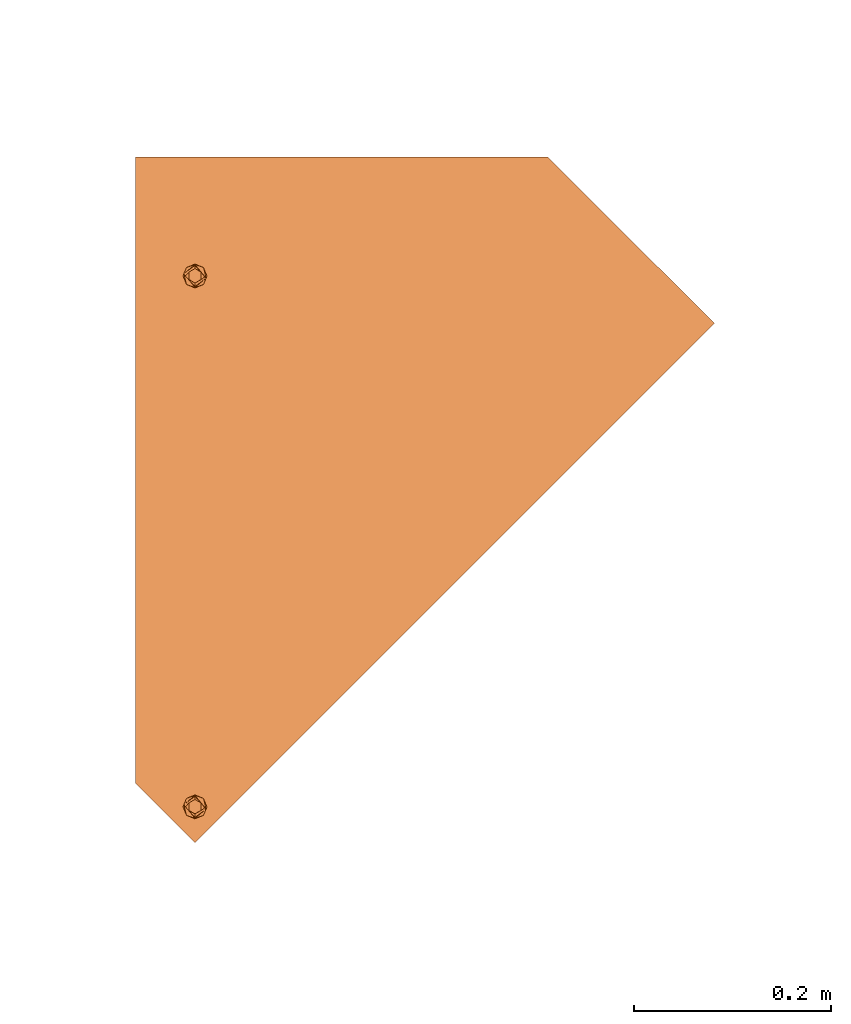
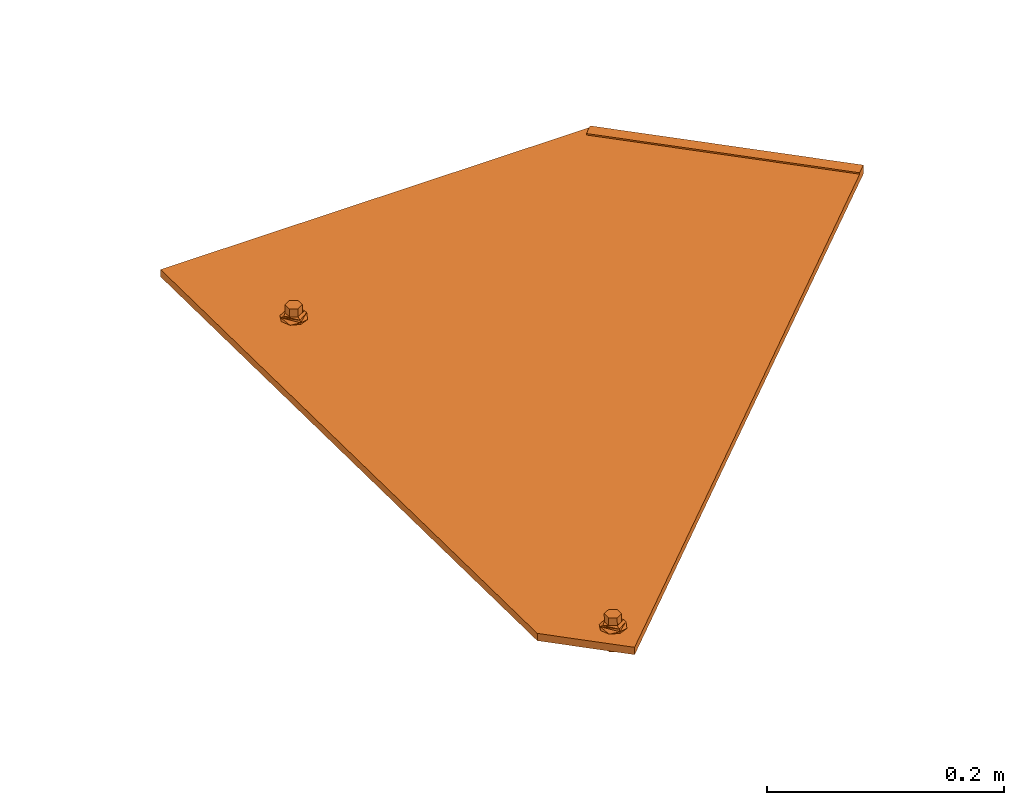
# One storey, part 142 of 151: 1 proxy.
"""IFC2X3 building model written with IfcOpenShell, lengths in millimetres."""

import ifcopenshell
import ifcopenshell.guid

model = None  # the IFC model being written
_history = None  # IfcOwnerHistory: only IFC2X3 demands one
_inside = {}  # id of a spatial element -> (the spatial element, [elements in it])
_under = {}  # id of a project, library or spatial element -> (it, [spatial elements below it])
_declared = {}  # id of a project -> (the project, [libraries it declares])
_typed = {}  # id of a type object -> (the type object, [elements of that type])
_made_of = {}  # id of a material, layer set ... -> (it, [elements and type objects made of it])


def new_model(schema):
    """Start an empty IFC model of exactly this schema.

    Asked for "IFC4X3", IfcOpenShell would pick the latest addendum, in which some entities
    have other attributes; the version numbers below select the first issue.
    IFC2X3 requires an IfcOwnerHistory on every rooted entity: one is made here for all.
    """
    global model, _history
    if schema == "IFC4X3":
        model = ifcopenshell.file(schema_version=(4, 3, 0, 0))
    else:
        model = ifcopenshell.file(schema=schema)
    _inside.clear()
    _under.clear()
    _declared.clear()
    _typed.clear()
    _made_of.clear()
    _history = None
    if model.schema == "IFC2X3":
        org = make("IfcOrganization", Name="unknown")
        user = make(
            "IfcPersonAndOrganization",
            ThePerson=make("IfcPerson", FamilyName="unknown"),
            TheOrganization=org,
        )
        app = make(
            "IfcApplication",
            ApplicationDeveloper=org,
            Version="unknown",
            ApplicationFullName="unknown",
            ApplicationIdentifier="unknown",
        )
        _history = make(
            "IfcOwnerHistory",
            OwningUser=user,
            OwningApplication=app,
            ChangeAction="ADDED",
            CreationDate=0,
        )
    return model


def make(cls, **values):
    """One entity of the class cls with the attributes given. An attribute that is None is left unset."""
    return model.create_entity(
        cls, **{name: value for name, value in values.items() if value is not None}
    )


def entity(cls, *values):
    """Any entity or typed value of the class cls, its attributes in the order of the schema. None: left unset."""
    e = model.create_entity(cls)
    for i, value in enumerate(values):
        if value is not None:
            e[i] = value
    return e


def rooted(cls, **values):
    """An entity with a GlobalId (a new one), such as an element, a storey or a relation."""
    return make(cls, GlobalId=ifcopenshell.guid.new(), OwnerHistory=_history, **values)


def si_unit(unit_type, name, prefix=None):
    """IfcSIUnit, for example si_unit("LENGTHUNIT", "METRE", prefix="MILLI")."""
    return make("IfcSIUnit", UnitType=unit_type, Prefix=prefix, Name=name)


def converted_unit(unit_type, name, factor, base, dimensions=None, offset=None):
    """IfcConversionBasedUnit, such as the inch: factor (a typed value) times the base unit."""
    return make(
        "IfcConversionBasedUnit"
        if offset is None
        else "IfcConversionBasedUnitWithOffset",
        ConversionOffset=offset,
        Dimensions=None
        if dimensions is None
        else entity("IfcDimensionalExponents", *dimensions),
        UnitType=unit_type,
        Name=name,
        ConversionFactor=make(
            "IfcMeasureWithUnit", ValueComponent=factor, UnitComponent=base
        ),
    )


def derived_unit(unit_type, elements):
    """IfcDerivedUnit: a product of units, each with its exponent."""
    return make(
        "IfcDerivedUnit",
        Elements=[
            make("IfcDerivedUnitElement", Unit=unit, Exponent=power)
            for unit, power in elements
        ],
        UnitType=unit_type,
    )


def assignment(units):
    """IfcUnitAssignment: the units of a project."""
    return None if units is None else make("IfcUnitAssignment", Units=units)


def point(xyz):
    """IfcCartesianPoint."""
    return None if xyz is None else make("IfcCartesianPoint", Coordinates=xyz)


def direction(xyz):
    """IfcDirection."""
    return None if xyz is None else make("IfcDirection", DirectionRatios=xyz)


def frame(location, z_axis=None, x_axis=None):
    """IfcAxis2Placement3D, a coordinate frame: its origin and axes. An axis left out is left unset."""
    return make(
        "IfcAxis2Placement3D",
        Location=point(location),
        Axis=direction(z_axis),
        RefDirection=direction(x_axis),
    )


def origin():
    """The frame at (0, 0, 0) with its axes left unset."""
    return frame((0.0, 0.0, 0.0))


def place(relative_to, where):
    """IfcLocalPlacement: puts the frame where relative to a parent placement (None: the world)."""
    return make(
        "IfcLocalPlacement", PlacementRelTo=relative_to, RelativePlacement=where
    )


def context(
    kind, dimensions, precision=None, world=None, true_north=None, identifier=None
):
    """IfcGeometricRepresentationContext, for example the 3D "Model" context."""
    return make(
        "IfcGeometricRepresentationContext",
        ContextIdentifier=identifier,
        ContextType=kind,
        CoordinateSpaceDimension=dimensions,
        Precision=precision,
        WorldCoordinateSystem=world,
        TrueNorth=true_north,
    )


def subcontext(parent, identifier, kind, view, scale=None):
    """IfcGeometricRepresentationSubContext, for example "Body" below "Model"."""
    return make(
        "IfcGeometricRepresentationSubContext",
        ContextIdentifier=identifier,
        ContextType=kind,
        ParentContext=parent,
        TargetScale=scale,
        TargetView=view,
    )


def project(units=None, contexts=None):
    """IfcProject with its units and contexts."""
    return rooted(
        "IfcProject",
        Name="project",
        RepresentationContexts=contexts,
        UnitsInContext=assignment(units),
    )


def spatial(cls, under=None, at=None, **own):
    """A site, building, storey or space (cls), placed at a placement, below another one or the project."""
    s = rooted(cls, ObjectPlacement=at, **own)
    if under is not None:
        _under.setdefault(under.id(), (under, []))[1].append(s)
    return s


def faces_of(points, faces, orient=None, outer=None):
    """IfcFace entities. A face is a list of loops; a loop is a list of indices into points, from 0.

    orient and outer hold one flag for each loop. By default every Orientation is true, the
    first loop of a face is its IfcFaceOuterBound and the others are IfcFaceBound.
    """
    made = []
    for i, loops in enumerate(faces):
        bounds = []
        for j, loop in enumerate(loops):
            is_outer = j == 0 if outer is None else outer[i][j]
            bounds.append(
                make(
                    "IfcFaceOuterBound" if is_outer else "IfcFaceBound",
                    Bound=make("IfcPolyLoop", Polygon=[points[k] for k in loop]),
                    Orientation=True if orient is None else orient[i][j],
                )
            )
        made.append(make("IfcFace", Bounds=bounds))
    return made


def faceted_brep(points, faces, orient=None, outer=None, voids=None):
    """IfcFacetedBrep: a solid bounded by flat faces; with voids (closed shells), ...WithVoids."""
    shared = [point(p) for p in points]
    hull = make("IfcClosedShell", CfsFaces=faces_of(shared, faces, orient, outer))
    if voids is None:
        return make("IfcFacetedBrep", Outer=hull)
    return make(
        "IfcFacetedBrepWithVoids",
        Outer=hull,
        Voids=[
            make(cls, CfsFaces=faces_of(shared, fs, o, b)) for cls, fs, o, b in voids
        ],
    )


def shape(context_of_items, identifier, shape_type, items):
    """IfcShapeRepresentation: the items that make up one representation, for example the "Body"."""
    return make(
        "IfcShapeRepresentation",
        ContextOfItems=context_of_items,
        RepresentationIdentifier=identifier,
        RepresentationType=shape_type,
        Items=items,
    )


def source(mapping_origin, context_of_items, identifier, shape_type, items):
    """IfcRepresentationMap: a shape defined once, which mapped items show again and again."""
    return make(
        "IfcRepresentationMap",
        MappingOrigin=mapping_origin,
        MappedRepresentation=shape(context_of_items, identifier, shape_type, items),
    )


def transform(
    local_origin,
    x_axis=None,
    y_axis=None,
    z_axis=None,
    scale=None,
    scale2=None,
    scale3=None,
    uniform=True,
):
    """IfcCartesianTransformationOperator3D, or its non-uniform kind. x_axis, y_axis, z_axis: its Axis1, 2, 3."""
    if uniform:
        return make(
            "IfcCartesianTransformationOperator3D",
            Axis1=direction(x_axis),
            Axis2=direction(y_axis),
            LocalOrigin=point(local_origin),
            Scale=scale,
            Axis3=direction(z_axis),
        )
    return make(
        "IfcCartesianTransformationOperator3DnonUniform",
        Axis1=direction(x_axis),
        Axis2=direction(y_axis),
        LocalOrigin=point(local_origin),
        Scale=scale,
        Axis3=direction(z_axis),
        Scale2=scale2,
        Scale3=scale3,
    )


def mapped(mapping_source, mapping_target):
    """IfcMappedItem: shows the shape of a source again, moved by a transform."""
    return make(
        "IfcMappedItem", MappingSource=mapping_source, MappingTarget=mapping_target
    )


def material(Name=None, Category=None):
    """IfcMaterial."""
    return make("IfcMaterial", Name=Name, Category=Category)


def material_list(materials):
    """IfcMaterialList."""
    return make("IfcMaterialList", Materials=materials)


def made_of(thing, what):
    """Note that an element or type object is made of a material, layer set ...; save() writes the relation."""
    if what is not None:
        _made_of.setdefault(what.id(), (what, []))[1].append(thing)
    return thing


def type_object(cls, material=None, **own):
    """A type object (cls), such as IfcWallType, which elements share."""
    return made_of(rooted(cls, **own), material)


def type_shapes(of_type, sources):
    """Give a type object the sources (RepresentationMaps) that its elements show as mapped items."""
    of_type.RepresentationMaps = sources


def element(
    cls,
    number,
    at=None,
    inside=None,
    cuts=None,
    type_object=None,
    material=None,
    context=None,
    identifier="Body",
    shape_type=None,
    held_by="IfcProductDefinitionShape",
    body=None,
    shapes=None,
    **own,
):
    """One element of the class cls, such as IfcWall. Its Tag is "e" and its number.

    at: its placement. inside: the storey or other place that contains it. cuts: it is an
    opening in that element (IfcRelVoidsElement). A single representation is given by context,
    identifier, shape_type and body (its items); several are given by shapes. held_by: the class
    of the entity that holds the representations. save() writes the other relations.
    """
    e = rooted(cls, Tag="e%d" % number, ObjectPlacement=at, **own)
    if body is not None:
        shapes = [shape(context, identifier, shape_type, body)]
    if shapes is not None:
        e.Representation = make(held_by, Representations=shapes)
    if inside is not None:
        _inside.setdefault(inside.id(), (inside, []))[1].append(e)
    if cuts is not None:
        rooted(
            "IfcRelVoidsElement", RelatingBuildingElement=cuts, RelatedOpeningElement=e
        )
    if type_object is not None:
        _typed.setdefault(type_object.id(), (type_object, []))[1].append(e)
    return made_of(e, material)


def aggregate(whole, parts):
    """IfcRelAggregates: a whole, such as a stair, and the parts it consists of."""
    return rooted("IfcRelAggregates", RelatingObject=whole, RelatedObjects=parts)


def save(model, path):
    """Write the relations noted so far, then the file.

    IfcRelAggregates (storeys below a building ...), IfcRelContainedInSpatialStructure (elements
    in a storey), IfcRelDefinesByType, IfcRelAssociatesMaterial and IfcRelDeclares: one each for
    every whole, place, type object, material and project.
    """
    for whole, parts in _under.values():
        aggregate(whole, parts)
    for where, things in _inside.values():
        rooted(
            "IfcRelContainedInSpatialStructure",
            RelatedElements=things,
            RelatingStructure=where,
        )
    for kind, things in _typed.values():
        rooted("IfcRelDefinesByType", RelatedObjects=things, RelatingType=kind)
    for what, things in _made_of.values():
        rooted("IfcRelAssociatesMaterial", RelatedObjects=things, RelatingMaterial=what)
    for by, libraries in _declared.values():
        rooted("IfcRelDeclares", RelatingContext=by, RelatedDefinitions=libraries)
    model.write(path)


model = new_model("IFC2X3")

# Units and contexts
model_context = context("Model", 3, precision=0.01, world=origin(), true_north=direction((6.12303176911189e-17, 1.0)))
body_context = subcontext(model_context, "Body", "Model", "MODEL_VIEW")
ifc_project = project(units=[si_unit("LENGTHUNIT", "METRE", prefix="MILLI"), si_unit("AREAUNIT", "SQUARE_METRE"), si_unit("VOLUMEUNIT", "CUBIC_METRE"), converted_unit("PLANEANGLEUNIT", "DEGREE", entity("IfcRatioMeasure", 0.0174532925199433), si_unit("PLANEANGLEUNIT", "RADIAN"), dimensions=[0, 0, 0, 0, 0, 0, 0]), si_unit("MASSUNIT", "GRAM", prefix="KILO"), derived_unit("MASSDENSITYUNIT", [(si_unit("MASSUNIT", "GRAM", prefix="KILO"), 1), (si_unit("LENGTHUNIT", "METRE"), -3)]), si_unit("TIMEUNIT", "SECOND"), si_unit("FREQUENCYUNIT", "HERTZ"), si_unit("THERMODYNAMICTEMPERATUREUNIT", "DEGREE_CELSIUS"), derived_unit("THERMALTRANSMITTANCEUNIT", [(si_unit("MASSUNIT", "GRAM", prefix="KILO"), 1), (si_unit("THERMODYNAMICTEMPERATUREUNIT", "KELVIN"), -1), (si_unit("TIMEUNIT", "SECOND"), -3)]), derived_unit("VOLUMETRICFLOWRATEUNIT", [(si_unit("LENGTHUNIT", "METRE"), 3), (si_unit("TIMEUNIT", "SECOND"), -1)]), si_unit("ELECTRICCURRENTUNIT", "AMPERE"), si_unit("ELECTRICVOLTAGEUNIT", "VOLT"), si_unit("POWERUNIT", "WATT"), si_unit("FORCEUNIT", "NEWTON", prefix="KILO"), si_unit("ILLUMINANCEUNIT", "LUX"), si_unit("LUMINOUSFLUXUNIT", "LUMEN"), si_unit("LUMINOUSINTENSITYUNIT", "CANDELA"), derived_unit("USERDEFINED", [(si_unit("MASSUNIT", "GRAM", prefix="KILO"), -1), (si_unit("LENGTHUNIT", "METRE"), -2), (si_unit("TIMEUNIT", "SECOND"), 3), (si_unit("LUMINOUSFLUXUNIT", "LUMEN"), 1)]), derived_unit("LINEARVELOCITYUNIT", [(si_unit("LENGTHUNIT", "METRE"), 1), (si_unit("TIMEUNIT", "SECOND"), -1)]), si_unit("PRESSUREUNIT", "PASCAL"), derived_unit("USERDEFINED", [(si_unit("LENGTHUNIT", "METRE"), -2), (si_unit("MASSUNIT", "GRAM", prefix="KILO"), 1), (si_unit("TIMEUNIT", "SECOND"), -2)])], contexts=[model_context])

# Site, building, storey
site_placement = place(None, origin())
site = spatial("IfcSite", under=ifc_project, at=site_placement, Name="Default", CompositionType="ELEMENT")
building_placement = place(site_placement, origin())
building = spatial("IfcBuilding", under=site, at=building_placement, CompositionType="ELEMENT")
storey_placement = place(building_placement, origin())
storey = spatial("IfcBuildingStorey", under=building, at=storey_placement, Name="Level 1", CompositionType="ELEMENT", Elevation=0.0)

# Proxy
ifc_material_1 = material(Name="Rubber - Sunstyle - Black")
ifc_material_2 = material(Name="Glass - Sunstyle - Tainted Black")
ifc_material_list_1 = material_list([ifc_material_1, ifc_material_2])
ifc_material_list_2 = material_list([ifc_material_1, ifc_material_2])
building_element_proxy_type = type_object("IfcBuildingElementProxyType", Name="Corner Top Big Left - Black", PredefinedType="NOTDEFINED", material=ifc_material_list_2)
shared_shape = source(origin(), body_context, "Body", "Brep", [
    faceted_brep([(0.0, -33.9825851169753, -4.47296585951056), (-5.7742028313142, -37.3158552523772, -4.41714187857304), (-5.77420283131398, -36.9475461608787, 17.5747274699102), (0.0, -33.6142760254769, 17.5189034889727), (-5.77420283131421, -43.9823955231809, -4.30549391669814), (-5.77420283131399, -43.6140864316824, 17.6863754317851), (0.0, -47.3156656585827, -4.24966993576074), (0.0, -46.9473565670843, 17.7421994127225), (5.77420283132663, -43.9823955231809, -4.30549391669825), (5.77420283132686, -43.6140864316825, 17.686375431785), (5.77420283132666, -37.3158552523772, -4.41714187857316), (5.77420283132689, -36.9475461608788, 17.5747274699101), (-8.60370416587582, -48.8833141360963, 17.774621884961), (0.0, -52.4465854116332, 17.8342978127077), (-12.1674751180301, -40.2808162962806, 17.6305514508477), (-8.60370416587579, -31.6783184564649, 17.4864810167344), (0.0, -28.115047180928, 17.4268050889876), (8.60370416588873, -31.6783184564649, 17.4864810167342), (12.167475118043, -40.2808162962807, 17.6305514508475), (8.60370416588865, -48.8833141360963, 17.7746218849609), (-11.3242446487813, -37.9857391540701, 19.9433933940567), (-9.75647455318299, -40.2098014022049, 21.8708760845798), (0.0, -32.8967261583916, 22.5035764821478), (0.0, -31.6562285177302, 21.9232298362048), (0.0, -29.4986776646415, 20.9138547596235), (0.0, -51.8905414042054, 19.1093557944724), (0.0, -50.9469648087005, 21.273060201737), (0.0, -47.4975891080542, 22.748104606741), (0.0, -28.6280832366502, 18.719767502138), (-6.32324569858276, -43.8473733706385, 22.6869725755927), (-6.32324569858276, -36.5469418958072, 22.5647085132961), (11.3242446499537, -42.4971593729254, 20.0189484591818), (9.84888015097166, -41.2842078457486, 21.7920079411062), (6.32324569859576, -36.5469418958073, 22.564708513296), (6.32324569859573, -43.8473733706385, 22.6869725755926), (-6.32324569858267, -43.7133449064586, 30.6898607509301), (0.0, -47.3635606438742, 30.7509927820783), (0.0, -40.063129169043, 30.6287287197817), (-6.32324569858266, -36.4129134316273, 30.5675966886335), (6.32324569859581, -43.7133449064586, 30.68986075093), (6.32324569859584, -36.4129134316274, 30.5675966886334), (0.0, -32.7626976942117, 30.5064646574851), (0.0, -40.649125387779, -4.36131789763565)], [[[0, 1, 2, 3]], [[1, 4, 5, 2]], [[4, 6, 7, 5]], [[6, 8, 9, 7]], [[8, 10, 11, 9]], [[10, 0, 3, 11]], [[12, 7, 13]], [[7, 12, 5]], [[14, 5, 12]], [[5, 14, 2]], [[15, 2, 14]], [[3, 2, 15]], [[15, 16, 3]], [[16, 17, 3]], [[11, 3, 17]], [[11, 17, 18]], [[9, 11, 18]], [[18, 19, 9]], [[7, 9, 19]], [[19, 13, 7]], [[20, 14, 12]], [[21, 22, 23, 24]], [[24, 20, 21]], [[25, 20, 12]], [[26, 27, 21]], [[15, 14, 20]], [[12, 13, 25]], [[20, 28, 15]], [[28, 20, 24]], [[21, 27, 29]], [[21, 29, 30]], [[26, 21, 20]], [[20, 25, 26]], [[15, 28, 16]], [[21, 30, 22]], [[31, 18, 17]], [[28, 31, 17]], [[32, 27, 26]], [[26, 31, 32]], [[26, 25, 31]], [[25, 19, 31]], [[17, 16, 28]], [[31, 19, 18]], [[24, 31, 28]], [[33, 34, 32]], [[23, 22, 33]], [[24, 32, 31]], [[27, 32, 34]], [[32, 23, 33]], [[19, 25, 13]], [[32, 24, 23]], [[35, 36, 37]], [[37, 38, 35]], [[36, 39, 37]], [[40, 37, 39]], [[37, 40, 41]], [[37, 41, 38]], [[42, 6, 4]], [[4, 1, 42]], [[1, 0, 42]], [[42, 8, 6]], [[0, 10, 42]], [[8, 42, 10]], [[22, 30, 38, 41]], [[30, 29, 35, 38]], [[29, 27, 36, 35]], [[27, 34, 39, 36]], [[34, 33, 40, 39]], [[33, 22, 41, 40]]]),
    faceted_brep([(0.0, -572.517457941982, 4.0063690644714), (-5.77420283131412, -575.850728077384, 4.06219304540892), (-5.77420283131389, -575.482418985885, 26.0540623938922), (0.0, -572.149148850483, 25.9982384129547), (-5.77420283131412, -582.517268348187, 4.17384100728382), (-5.7742028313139, -582.148959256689, 26.1657103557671), (0.0, -585.850538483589, 4.22966498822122), (0.0, -585.482229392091, 26.2215343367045), (5.77420283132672, -582.517268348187, 4.17384100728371), (5.77420283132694, -582.148959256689, 26.165710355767), (5.77420283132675, -575.850728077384, 4.0621930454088), (5.77420283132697, -575.482418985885, 26.0540623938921), (-8.60370416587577, -587.418186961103, 26.253956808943), (0.0, -590.98145823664, 26.3136327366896), (-12.1674751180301, -578.815689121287, 26.1098863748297), (-8.60370416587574, -570.213191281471, 25.9658159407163), (0.0, -566.649920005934, 25.9061400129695), (8.60370416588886, -570.213191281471, 25.9658159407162), (12.1674751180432, -578.815689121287, 26.1098863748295), (8.60370416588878, -587.418186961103, 26.2539568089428), (-11.3242446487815, -576.520611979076, 28.4227283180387), (-9.75647455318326, -578.744674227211, 30.3502110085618), (0.0, -571.431598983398, 30.9829114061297), (0.0, -570.191101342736, 30.4025647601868), (0.0, -568.033550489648, 29.3931896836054), (0.0, -590.425414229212, 27.5886907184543), (0.0, -589.481837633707, 29.752395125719), (0.0, -586.032461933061, 31.227439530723), (0.0, -567.162956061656, 27.1991024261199), (-6.32324569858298, -582.382246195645, 31.1663074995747), (-6.32324569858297, -575.081814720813, 31.0440434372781), (11.3242446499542, -581.032032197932, 28.4982833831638), (9.8488801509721, -579.819080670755, 30.2713428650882), (6.32324569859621, -575.081814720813, 31.044043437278), (6.32324569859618, -582.382246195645, 31.1663074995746), (-6.32324569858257, -582.248217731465, 39.1691956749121), (0.0, -585.898433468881, 39.2303277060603), (0.0, -578.598001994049, 39.1080636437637), (-6.32324569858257, -574.947786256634, 39.0469316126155), (6.32324569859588, -582.248217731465, 39.1691956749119), (6.32324569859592, -574.947786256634, 39.0469316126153), (0.0, -571.297570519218, 38.9857995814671), (0.0, -579.183998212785, 4.1180170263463)], [[[0, 1, 2, 3]], [[1, 4, 5, 2]], [[4, 6, 7, 5]], [[6, 8, 9, 7]], [[8, 10, 11, 9]], [[10, 0, 3, 11]], [[12, 7, 13]], [[7, 12, 5]], [[14, 5, 12]], [[5, 14, 2]], [[15, 2, 14]], [[3, 2, 15]], [[15, 16, 3]], [[16, 17, 3]], [[11, 3, 17]], [[11, 17, 18]], [[9, 11, 18]], [[18, 19, 9]], [[7, 9, 19]], [[19, 13, 7]], [[20, 14, 12]], [[21, 22, 23, 24]], [[24, 20, 21]], [[25, 20, 12]], [[26, 27, 21]], [[15, 14, 20]], [[12, 13, 25]], [[20, 28, 15]], [[28, 20, 24]], [[21, 27, 29]], [[21, 29, 30]], [[26, 21, 20]], [[20, 25, 26]], [[15, 28, 16]], [[21, 30, 22]], [[31, 18, 17]], [[28, 31, 17]], [[32, 27, 26]], [[26, 31, 32]], [[26, 25, 31]], [[25, 19, 31]], [[17, 16, 28]], [[31, 19, 18]], [[24, 31, 28]], [[33, 34, 32]], [[23, 22, 33]], [[24, 32, 31]], [[27, 32, 34]], [[32, 23, 33]], [[19, 25, 13]], [[32, 24, 23]], [[35, 36, 37]], [[37, 38, 35]], [[36, 39, 37]], [[40, 37, 39]], [[37, 40, 41]], [[37, 41, 38]], [[42, 6, 4]], [[4, 1, 42]], [[1, 0, 42]], [[42, 8, 6]], [[0, 10, 42]], [[8, 42, 10]], [[22, 30, 38, 41]], [[30, 29, 35, 38]], [[29, 27, 36, 35]], [[27, 34, 39, 36]], [[34, 33, 40, 39]], [[33, 22, 41, 40]]]),
    faceted_brep([(518.469870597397, -96.888376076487, 17.926263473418), (526.954557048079, -88.4036896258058, 17.7841660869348), (526.954557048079, -88.3785718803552, 19.2839557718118), (518.469870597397, -96.8632583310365, 19.426053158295), (349.749078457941, 71.7851066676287, 15.1014023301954), (358.233764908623, 80.2697931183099, 14.9593049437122), (358.233764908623, 80.2949108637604, 16.4590946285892), (349.749078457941, 71.8102244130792, 16.6011920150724)], [[[0, 1, 2, 3]], [[1, 0, 4, 5]], [[2, 1, 5, 6]], [[3, 2, 6, 7]], [[0, 3, 7, 4]], [[4, 7, 6, 5]]]),
    faceted_brep([(358.233764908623, 80.2697931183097, 14.9593049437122), (6.92820323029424, -35.9783347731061, 16.9061718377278), (7.72740661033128, -37.9075118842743, 16.9384807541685), (5.6568542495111, -34.321712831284, 16.8784275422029), (8.0, -39.9777739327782, 16.9731524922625), (7.72740661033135, -42.0480359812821, 17.0078242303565), (6.92820323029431, -43.9772130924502, 17.0401331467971), (526.954557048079, -88.4036896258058, 17.7841660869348), (-60.1037538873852, 80.269793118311, 14.9593049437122), (4.0, -33.0505421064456, 16.8571385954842), (2.07055236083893, -32.2514507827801, 16.8437558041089), (0.0, -31.9788956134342, 16.8391911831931), (-2.07055236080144, -32.2514507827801, 16.8437558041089), (-4.0, -33.0505421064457, 16.8571385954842), (-5.6568542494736, -34.321712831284, 16.8784275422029), (-6.92820323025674, -35.9783347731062, 16.9061718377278), (-7.72740661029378, -37.9075118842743, 16.9384807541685), (-8.0, -39.9777739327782, 16.9731524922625), (-7.72740661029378, -42.0480359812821, 17.0078242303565), (-60.1037538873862, -555.122942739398, 25.6005522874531), (-6.92820323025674, -43.9772130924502, 17.0401331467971), (-5.6568542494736, -45.6338350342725, 17.067877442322), (-4.0, -46.9050057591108, 17.0891663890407), (-2.07055236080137, -47.7040970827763, 17.102549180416), (0.0, -47.9766522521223, 17.1071138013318), (2.07055236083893, -47.7040970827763, 17.102549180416), (2.00505600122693, -570.990105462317, 25.8662877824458), (-0.0654963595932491, -570.717550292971, 25.8617231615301), (-2.13604872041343, -570.990105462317, 25.8662877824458), (-4.06549635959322, -571.789196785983, 25.8796705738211), (-5.7223506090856, -573.060367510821, 25.9009595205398), (-6.99369958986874, -574.716989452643, 25.9287038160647), (-7.79290296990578, -576.646166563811, 25.9610127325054), (-8.06549635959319, -578.716428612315, 25.9956844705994), (-7.79290296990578, -580.786690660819, 26.0303562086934), (-6.99369958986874, -582.715867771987, 26.062665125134), (0.00032251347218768, -615.210165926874, 26.6068637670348), (7.66191025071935, -580.786690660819, 26.0303562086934), (6.86270687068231, -582.715867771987, 26.062665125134), (5.59135788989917, -584.37248971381, 26.0904094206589), (3.93450364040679, -585.643660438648, 26.1116983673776), (2.005056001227, -586.442751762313, 26.1250811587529), (-0.0654963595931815, -586.715306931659, 26.1296457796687), (-2.13604872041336, -586.442751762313, 26.1250811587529), (-4.06549635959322, -585.643660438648, 26.1116983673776), (-5.7223506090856, -584.37248971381, 26.0904094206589), (3.93450364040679, -571.789196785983, 25.8796705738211), (4.0, -46.9050057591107, 17.0891663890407), (5.59135788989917, -573.060367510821, 25.9009595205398), (5.65685424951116, -45.6338350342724, 17.067877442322), (6.86270687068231, -574.716989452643, 25.9287038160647), (7.66191025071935, -576.646166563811, 25.9610127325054), (7.93450364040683, -578.716428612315, 25.9956844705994), (-60.1037538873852, 80.1442043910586, 7.46035651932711), (-6.92820323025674, -36.1039235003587, 9.40722341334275), (-7.72740661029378, -38.0331006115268, 9.4395323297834), (-5.6568542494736, -34.4473015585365, 9.37947911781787), (-8.0, -40.1033626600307, 9.4742040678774), (-7.72740661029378, -42.1736247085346, 9.5088758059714), (-60.1037538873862, -555.248531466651, 18.101603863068), (-4.0, -33.1761308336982, 9.35819017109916), (-2.07055236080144, -32.3770395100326, 9.34480737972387), (0.0, -32.1044843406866, 9.34024275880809), (2.07055236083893, -32.3770395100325, 9.34480737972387), (4.0, -33.1761308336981, 9.35819017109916), (5.6568542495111, -34.4473015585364, 9.37947911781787), (358.233764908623, 80.1442043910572, 7.46035651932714), (6.92820323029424, -36.1039235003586, 9.40722341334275), (7.72740661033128, -38.0331006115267, 9.4395323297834), (8.0, -40.1033626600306, 9.4742040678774), (7.72740661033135, -42.1736247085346, 9.5088758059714), (6.92820323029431, -44.1028018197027, 9.54118472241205), (526.954557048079, -88.5292783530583, 10.2852176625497), (5.65685424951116, -45.7594237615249, 9.56892901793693), (5.59135788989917, -573.185956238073, 18.4020110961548), (6.86270687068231, -574.842578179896, 18.4297553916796), (7.66191025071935, -576.771755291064, 18.4620643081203), (7.93450364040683, -578.842017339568, 18.4967360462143), (7.66191025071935, -580.912279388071, 18.5314077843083), (0.00032251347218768, -615.335754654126, 19.1079153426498), (-6.99369958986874, -582.84145649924, 18.563716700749), (-5.7223506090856, -584.498078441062, 18.5914609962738), (-4.06549635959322, -585.7692491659, 18.6127499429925), (-2.13604872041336, -586.568340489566, 18.6261327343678), (-0.0654963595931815, -586.840895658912, 18.6306973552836), (2.005056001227, -586.568340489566, 18.6261327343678), (3.93450364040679, -585.7692491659, 18.6127499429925), (5.59135788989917, -584.498078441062, 18.5914609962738), (6.86270687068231, -582.84145649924, 18.563716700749), (4.0, -47.0305944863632, 9.59021796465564), (3.93450364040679, -571.914785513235, 18.3807221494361), (2.07055236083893, -47.8296858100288, 9.60360075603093), (2.00505600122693, -571.115694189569, 18.3673393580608), (-0.0654963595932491, -570.843139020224, 18.362774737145), (-2.13604872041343, -571.11569418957, 18.3673393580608), (-4.06549635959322, -571.914785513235, 18.3807221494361), (-5.7223506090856, -573.185956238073, 18.4020110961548), (-6.99369958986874, -574.842578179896, 18.4297553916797), (-7.79290296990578, -576.771755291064, 18.4620643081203), (-8.06549635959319, -578.842017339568, 18.4967360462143), (-7.79290296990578, -580.912279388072, 18.5314077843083), (0.0, -48.1022409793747, 9.60816537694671), (-6.92820323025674, -44.1028018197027, 9.54118472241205), (-5.6568542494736, -45.7594237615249, 9.56892901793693), (-4.0, -47.0305944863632, 9.59021796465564), (-2.07055236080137, -47.8296858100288, 9.60360075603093)], [[[0, 1, 2]], [[1, 0, 3]], [[0, 2, 4]], [[4, 5, 0]], [[5, 6, 0]], [[7, 0, 6]], [[8, 3, 0]], [[8, 9, 3]], [[8, 10, 9]], [[11, 10, 8]], [[12, 11, 8]], [[13, 12, 8]], [[8, 14, 13]], [[14, 8, 15]], [[15, 8, 16]], [[17, 16, 8]], [[18, 17, 8]], [[18, 8, 19]], [[19, 20, 18]], [[21, 20, 19]], [[22, 21, 19]], [[23, 22, 19]], [[19, 24, 23]], [[19, 25, 24]], [[26, 25, 19]], [[26, 19, 27]], [[28, 27, 19]], [[29, 28, 19]], [[29, 19, 30]], [[19, 31, 30]], [[31, 19, 32]], [[32, 19, 33]], [[34, 33, 19]], [[35, 34, 19]], [[35, 19, 36]], [[7, 37, 36]], [[36, 37, 38]], [[39, 36, 38]], [[39, 40, 36]], [[41, 36, 40]], [[42, 36, 41]], [[42, 43, 36]], [[43, 44, 36]], [[45, 35, 36]], [[45, 36, 44]], [[25, 26, 46]], [[46, 47, 25]], [[48, 47, 46]], [[48, 49, 47]], [[50, 7, 48]], [[48, 7, 49]], [[7, 50, 51]], [[7, 51, 52]], [[52, 37, 7]], [[7, 6, 49]], [[53, 54, 55]], [[54, 53, 56]], [[53, 55, 57]], [[58, 53, 57]], [[53, 58, 59]], [[60, 56, 53]], [[61, 60, 53]], [[53, 62, 61]], [[62, 53, 63]], [[63, 53, 64]], [[53, 65, 64]], [[65, 53, 66]], [[66, 67, 65]], [[67, 66, 68]], [[68, 66, 69]], [[70, 69, 66]], [[71, 70, 66]], [[71, 66, 72]], [[72, 73, 71]], [[73, 72, 74]], [[74, 72, 75]], [[75, 72, 76]], [[77, 76, 72]], [[78, 77, 72]], [[78, 72, 79]], [[59, 80, 79]], [[79, 80, 81]], [[79, 81, 82]], [[82, 83, 79]], [[83, 84, 79]], [[79, 84, 85]], [[79, 85, 86]], [[86, 87, 79]], [[79, 87, 88]], [[79, 88, 78]], [[73, 74, 89]], [[90, 89, 74]], [[90, 91, 89]], [[91, 90, 92]], [[93, 59, 92]], [[92, 59, 91]], [[93, 94, 59]], [[94, 95, 59]], [[95, 96, 59]], [[97, 59, 96]], [[97, 98, 59]], [[98, 99, 59]], [[99, 100, 59]], [[100, 80, 59]], [[59, 101, 91]], [[102, 59, 58]], [[102, 103, 59]], [[103, 104, 59]], [[104, 105, 59]], [[59, 105, 101]], [[36, 19, 59, 79]], [[7, 36, 79, 72]], [[0, 7, 72, 66]], [[33, 99, 98, 32]], [[32, 98, 97, 31]], [[29, 30, 96, 95]], [[96, 30, 31, 97]], [[28, 29, 95, 94]], [[28, 94, 93, 27]], [[27, 93, 92, 26]], [[26, 92, 90, 46]], [[50, 48, 74, 75]], [[74, 48, 46, 90]], [[51, 50, 75, 76]], [[51, 76, 77, 52]], [[52, 77, 78, 37]], [[37, 78, 88, 38]], [[40, 39, 87, 86]], [[87, 39, 38, 88]], [[41, 40, 86, 85]], [[41, 85, 84, 42]], [[42, 84, 83, 43]], [[43, 83, 82, 44]], [[35, 45, 81, 80]], [[81, 45, 44, 82]], [[34, 35, 80, 100]], [[34, 100, 99, 33]], [[17, 57, 55, 16]], [[16, 55, 54, 15]], [[13, 14, 56, 60]], [[56, 14, 15, 54]], [[12, 13, 60, 61]], [[12, 61, 62, 11]], [[11, 62, 63, 10]], [[10, 63, 64, 9]], [[1, 3, 65, 67]], [[65, 3, 9, 64]], [[2, 1, 67, 68]], [[2, 68, 69, 4]], [[4, 69, 70, 5]], [[5, 70, 71, 6]], [[47, 49, 73, 89]], [[73, 49, 6, 71]], [[25, 47, 89, 91]], [[25, 91, 101, 24]], [[24, 101, 105, 23]], [[23, 105, 104, 22]], [[20, 21, 103, 102]], [[103, 21, 22, 104]], [[18, 20, 102, 58]], [[18, 58, 57, 17]], [[19, 8, 53, 59]], [[8, 0, 66, 53]]]),
])
type_shapes(building_element_proxy_type, [shared_shape])
proxy_placement = place(storey_placement, frame((5177.58140001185, 10128.3354445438, 0.0)))
element("IfcBuildingElementProxy", 1, at=proxy_placement, inside=storey, type_object=building_element_proxy_type, material=ifc_material_list_1, Name="Roofing_Panels_SunStyle_Tile_Corner-Top-Big-Left:Corner Top Big Left - Black", ObjectType="Roofing_Panels_SunStyle_Tile_Corner-Top-Big-Left:Corner Top Big Left - Black", context=body_context, shape_type="MappedRepresentation", body=[
    mapped(shared_shape, transform((0.0, 0.0, 0.0), scale=1.0)),
])

save(model, "model.ifc")
